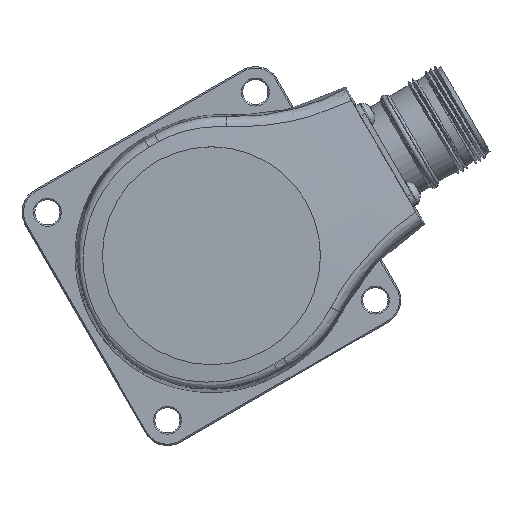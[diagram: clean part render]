
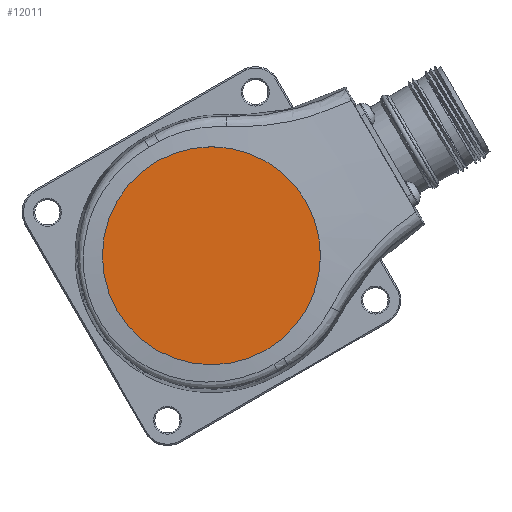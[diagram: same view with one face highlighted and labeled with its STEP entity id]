
A CAD part, top view. The second image highlights one B-rep face of the part: STEP entity #12011.
In plain terms, the highlighted planar face has unit normal (0, 0, 1).
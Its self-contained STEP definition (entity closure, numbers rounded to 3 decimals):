
#571=CIRCLE('',#12616,23.794);
#1125=ORIENTED_EDGE('',*,*,#3104,.T.);
#3104=EDGE_CURVE('',#4140,#4140,#571,.T.);
#4140=VERTEX_POINT('',#16018);
#5790=EDGE_LOOP('',(#1125));
#6693=FACE_BOUND('',#5790,.T.);
#7585=PLANE('',#12624);
#12011=ADVANCED_FACE('',(#6693),#7585,.T.);
#12616=AXIS2_PLACEMENT_3D('',#16017,#13639,#13640);
#12624=AXIS2_PLACEMENT_3D('',#17713,#13655,#13656);
#13639=DIRECTION('',(0.,0.,1.));
#13640=DIRECTION('',(-0.5,0.866,0.));
#13655=DIRECTION('',(0.,0.,1.));
#13656=DIRECTION('',(-0.5,0.866,0.));
#16017=CARTESIAN_POINT('',(0.,0.,42.));
#16018=CARTESIAN_POINT('',(-11.897,20.606,42.));
#17713=CARTESIAN_POINT('',(0.,0.,42.));
